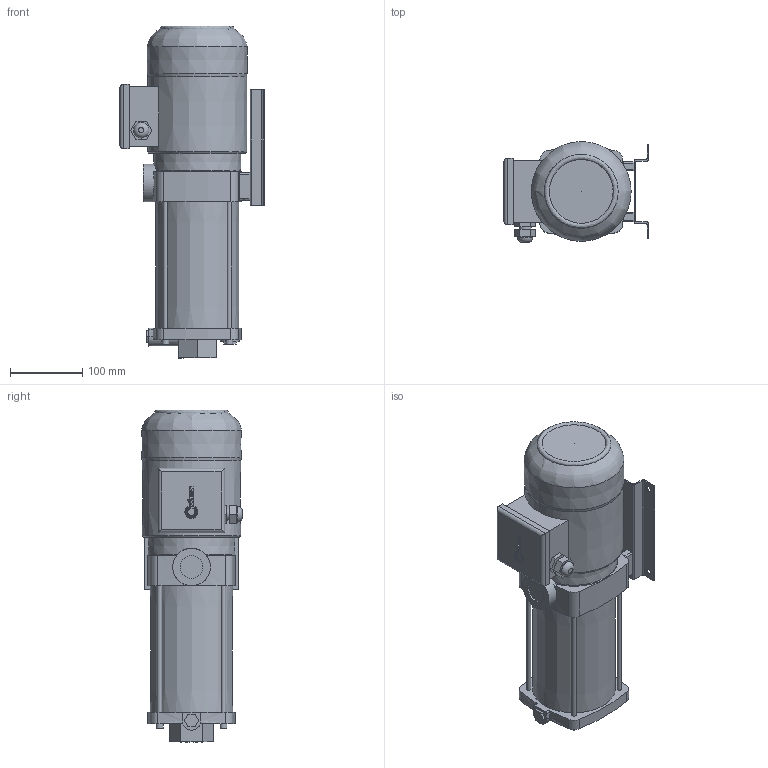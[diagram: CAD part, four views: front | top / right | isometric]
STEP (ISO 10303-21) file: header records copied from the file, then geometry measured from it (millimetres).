
FILE_DESCRIPTION(/* description */ ('Unknown'),/* implementation_level */ '2;1');
FILE_NAME(/* name */ 'hc07',/* time_stamp */ '2025-06-17T14:12:43+03:00',/* author */ ('Unknown'),/* organization */ ('Unknown'),/* preprocessor_version */ 'ST-DEVELOPER v16.7',/* originating_system */ 'DEX',/* authorisation */ $);
FILE_SCHEMA (('AUTOMOTIVE_DESIGN {1 0 10303 214 3 1 1}'));
Length unit declared in the file: millimetre
Products named in the file (1): hc07
Bounding box: 200.5 x 139.29 x 459.08 mm (x, y, z)
Volume: 5891535 mm3; surface area: 305655.8 mm2
Topology: 1 solids, 1 shells, 256 faces, 667 edges, 443 vertices
Faces by surface type: plane 106, bspline 75, cylinder 60, cone 12, torus 3
Full cylindrical faces by diameter (mm): 6 x4, 9 x4, 9.5 x4, 17 x1, 21.5 x1, 26 x1, 31 x1, 39.268 x1, 52 x1
Entity records: 11261 total; most frequent: CARTESIAN_POINT 5502, ORIENTED_EDGE 1250, DIRECTION 971, EDGE_CURVE 625, VERTEX_POINT 432, FACE_BOUND 335, EDGE_LOOP 334, AXIS2_PLACEMENT_3D 331
